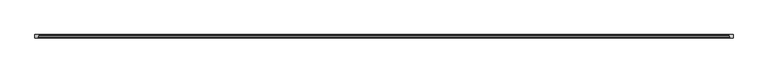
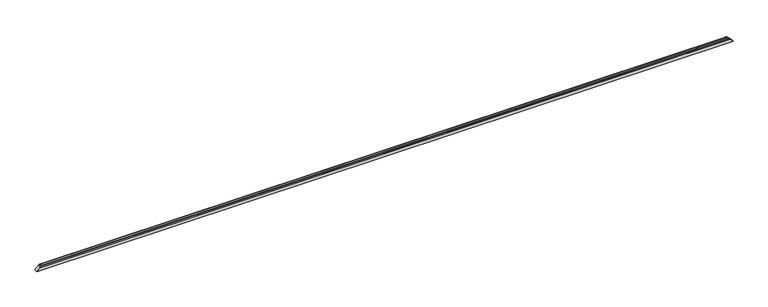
"""IFC4 building model written with IfcOpenShell, lengths in millimetres: proxy geometry, Weiku - Montante - Caixilho 02.2.01.005 : Weiku - Montante - Caixilho 02.2.01.005."""

from ifc_helpers import new_model, si_unit, frame, origin, place, context, project, spatial, ellipse_curve, source, transform, mapped, element, save
from ifc_brep_helpers import plane_surface, cylinder_surface, advanced_brep


def generic_models_8423c44d(model_context):
    return source(origin(), model_context, "Body", "AdvancedBrep", [
        advanced_brep(
        [(-4916.0, -12.5, 46.0), (4916.0, -12.5, 46.0), (4895.8909676, -12.5, 66.1090324), (-4895.8909676, -12.5, 66.1090324), (-4916.0, -37.8314286, 46.0), (4916.0, -37.8314286, 46.0), (-4913.0, -37.027581, 49.0), (4913.0, -37.027581, 49.0), (-4913.0, -50.0, 49.0), (4913.0, -50.0, 49.0), (4962.0, -50.0, 0.0), (-4962.0, -50.0, 0.0), (-4962.0, 0.0, 0.0), (4962.0, 0.0, 0.0), (-4900.4997332, 0.0, 61.5002668), (4900.4997332, 0.0, 61.5002668), (-4895.118227, -11.4929448, 66.881773), (4895.118227, -11.4929448, 66.881773), (4897.6019557, -2.2235429, 64.3980443), (-4897.6019557, -2.2235429, 64.3980443)],
        [
            (0, 1),
            (1, 2),
            (2, 3),
            (3, 0),
            (4, 5),
            (5, 1),
            (0, 4),
            (6, 7),
            (7, 5),
            (4, 6),
            (8, 9),
            (9, 7),
            (6, 8),
            (10, 9),
            (8, 11),
            (11, 10),
            (11, 12),
            (12, 13),
            (13, 10),
            (12, 14),
            (14, 15),
            (15, 13),
            (16, 17),
            (17, 18),
            (18, 19),
            (19, 16),
            (3, 16, ellipse_curve(frame((-4895.8909676, -11.7, 66.1090324), z_axis=(-0.7071067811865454, 0.0, 0.7071067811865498), x_axis=(-0.7071067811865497, 0.0, -0.7071067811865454)), 1.1313708, 0.8)),
            (19, 14, ellipse_curve(frame((-4900.4997332, -3.0, 61.5002668), z_axis=(-0.7071067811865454, 0.0, 0.7071067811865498), x_axis=(-0.7071067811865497, 0.0, -0.7071067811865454)), 4.2426407, 3.0)),
            (15, 18, ellipse_curve(frame((4900.4997332, -3.0, 61.5002668), z_axis=(0.7071067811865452, 0.0, 0.7071067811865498), x_axis=(-0.7071067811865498, 0.0, 0.7071067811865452)), 4.2426407, 3.0)),
            (17, 2, ellipse_curve(frame((4895.8909676, -11.7, 66.1090324), z_axis=(0.7071067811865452, 0.0, 0.7071067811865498), x_axis=(-0.7071067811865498, 0.0, 0.7071067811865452)), 1.1313708, 0.8)),
        ],
        [
            plane_surface(frame((-4962.0, -12.5, 66.1090324), z_axis=(0.0, -1.0, 0.0), x_axis=(1.0, 0.0, 0.0))),
            plane_surface(frame((-4962.0, -12.5, 46.0), z_axis=(0.0, 0.0, 1.0), x_axis=(1.0, 0.0, 0.0))),
            plane_surface(frame((-4962.0, -37.8314286, 46.0), z_axis=(0.0, 0.9659258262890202, -0.2588190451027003), x_axis=(1.0, 0.0, 0.0))),
            plane_surface(frame((-4962.0, -37.027581, 49.0), z_axis=(0.0, 0.0, 1.0), x_axis=(1.0, 0.0, 0.0))),
            plane_surface(frame((-4962.0, -50.0, 49.0), z_axis=(0.0, -1.0, 0.0), x_axis=(1.0, 0.0, 0.0))),
            plane_surface(frame((-4962.0, -50.0, 0.0), z_axis=(0.0, 0.0, -1.0), x_axis=(1.0, 0.0, 0.0))),
            plane_surface(frame((-4962.0, 0.0, 0.0), z_axis=(0.0, 1.0, 0.0), x_axis=(1.0, 0.0, 0.0))),
            plane_surface(frame((-4962.0, -2.2235429, 64.3980443), z_axis=(0.0, 0.2588190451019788, 0.9659258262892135), x_axis=(1.0, 0.0, 0.0))),
            plane_surface(frame((-5032.0, 15.0, -70.0), z_axis=(-0.7071067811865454, 0.0, 0.7071067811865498), x_axis=(0.0, -1.0, 0.0))),
            plane_surface(frame((4892.0, 15.0, 70.0), z_axis=(0.7071067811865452, 0.0, 0.7071067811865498), x_axis=(0.0, -1.0, 0.0))),
            cylinder_surface(frame((-4962.0, -11.7, 66.1090324), z_axis=(-1.0, 0.0, 0.0), x_axis=(0.0, -1.0, 0.0)), 0.8),
            cylinder_surface(frame((-4962.0, -3.0, 61.5002668), z_axis=(-1.0, 0.0, 0.0), x_axis=(0.0, -1.0, 0.0)), 3.0),
        ],
        [
            (0, [[1, 2, 3, 4]]),
            (1, [[5, 6, -1, 7]]),
            (2, [[8, 9, -5, 10]]),
            (3, [[11, 12, -8, 13]]),
            (4, [[14, -11, 15, 16]]),
            (5, [[17, 18, 19, -16]]),
            (6, [[20, 21, 22, -18]]),
            (7, [[23, 24, 25, 26]]),
            (8, [[27, -26, 28, -20, -17, -15, -13, -10, -7, -4]]),
            (9, [[-6, -9, -12, -14, -19, -22, 29, -24, 30, -2]]),
            (10, [[-3, -30, -23, -27]]),
            (11, [[-25, -29, -21, -28]]),
        ],
    ),
    ])


if __name__ == "__main__":
    model = new_model("IFC4")
    model_context = context("Model", 3, world=origin())
    ifc_project = project(units=[si_unit("LENGTHUNIT", "METRE", prefix="MILLI")], contexts=[model_context])
    site = spatial("IfcSite", under=ifc_project)
    building = spatial("IfcBuilding", under=site)
    placement = place(None, origin())
    generic_models_shape = generic_models_8423c44d(model_context)
    element("IfcBuildingElementProxy", 1, Name="Weiku - Montante - Caixilho 02.2.01.005 : Weiku - Montante - Caixilho 02.2.01.005", ObjectType="Weiku - Montante - Caixilho 02.2.01.005 : Weiku - Montante - Caixilho 02.2.01.005", at=placement, inside=building, context=model_context, shape_type="MappedRepresentation", body=[
        mapped(generic_models_shape, transform((0.0, 0.0, 0.0), x_axis=(1.0, 0.0, 0.0), y_axis=(0.0, 1.0, 0.0), z_axis=(0.0, 0.0, 1.0))),
    ])
    save(model, "model.ifc")
